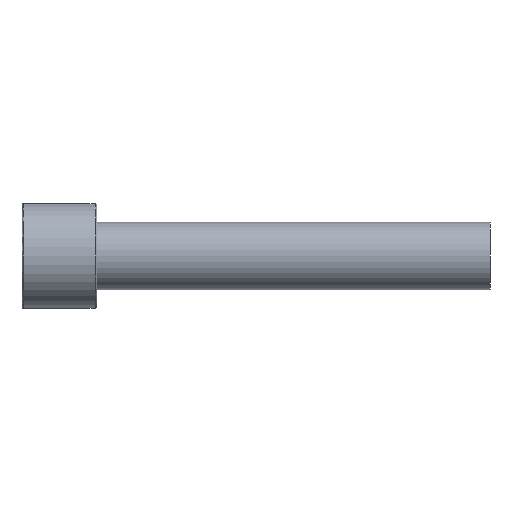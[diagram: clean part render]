
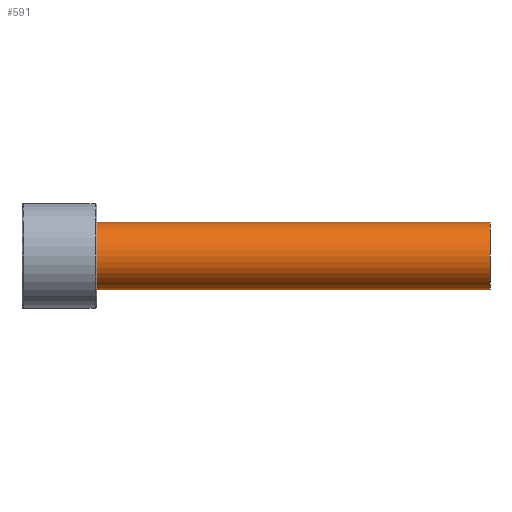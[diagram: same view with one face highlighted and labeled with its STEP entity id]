
A CAD part, front view. The second image highlights one B-rep face of the part: STEP entity #591.
In plain terms, the highlighted cylindrical face has radius 9 mm (diameter 18 mm), a partial arc.
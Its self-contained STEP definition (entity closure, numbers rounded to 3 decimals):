
#425=CARTESIAN_POINT('Vertex',(125.,0.,9.)) ;
#428=CARTESIAN_POINT('Axis2P3D Location',(125.,0.,0.)) ;
#432=CARTESIAN_POINT('Vertex',(125.,-9.,0.)) ;
#435=CARTESIAN_POINT('Axis2P3D Location',(125.,0.,0.)) ;
#439=CARTESIAN_POINT('Vertex',(125.,0.,-9.)) ;
#531=CARTESIAN_POINT('Line Origine',(125.,0.,9.)) ;
#535=CARTESIAN_POINT('Vertex',(20.,0.,9.)) ;
#538=CARTESIAN_POINT('Line Origine',(125.,0.,-9.)) ;
#542=CARTESIAN_POINT('Vertex',(20.,0.,-9.)) ;
#566=CARTESIAN_POINT('Axis2P3D Location',(125.,0.,0.)) ;
#571=CARTESIAN_POINT('Axis2P3D Location',(20.,0.,0.)) ;
#575=CARTESIAN_POINT('Vertex',(20.,-9.,0.)) ;
#578=CARTESIAN_POINT('Axis2P3D Location',(20.,0.,0.)) ;
#429=DIRECTION('Axis2P3D Direction',(1.,0.,-0.)) ;
#436=DIRECTION('Axis2P3D Direction',(1.,0.,-0.)) ;
#532=DIRECTION('Vector Direction',(-1.,0.,0.)) ;
#539=DIRECTION('Vector Direction',(-1.,0.,0.)) ;
#567=DIRECTION('Axis2P3D Direction',(-1.,-0.,-0.)) ;
#568=DIRECTION('Axis2P3D XDirection',(0.,0.,-1.)) ;
#572=DIRECTION('Axis2P3D Direction',(-1.,-0.,-0.)) ;
#579=DIRECTION('Axis2P3D Direction',(-1.,-0.,-0.)) ;
#430=AXIS2_PLACEMENT_3D('Circle Axis2P3D',#428,#429,$) ;
#437=AXIS2_PLACEMENT_3D('Circle Axis2P3D',#435,#436,$) ;
#569=AXIS2_PLACEMENT_3D('Cylinder Axis2P3D',#566,#567,#568) ;
#573=AXIS2_PLACEMENT_3D('Circle Axis2P3D',#571,#572,$) ;
#580=AXIS2_PLACEMENT_3D('Circle Axis2P3D',#578,#579,$) ;
#584=ORIENTED_EDGE('',*,*,#544,.T.) ;
#585=ORIENTED_EDGE('',*,*,#441,.F.) ;
#586=ORIENTED_EDGE('',*,*,#434,.F.) ;
#587=ORIENTED_EDGE('',*,*,#537,.T.) ;
#588=ORIENTED_EDGE('',*,*,#577,.T.) ;
#589=ORIENTED_EDGE('',*,*,#582,.T.) ;
#533=VECTOR('Line Direction',#532,1.) ;
#540=VECTOR('Line Direction',#539,1.) ;
#591=ADVANCED_FACE('367-18X125',(#590),#570,.T.) ;
#431=CIRCLE('generated circle',#430,9.) ;
#438=CIRCLE('generated circle',#437,9.) ;
#574=CIRCLE('generated circle',#573,9.) ;
#581=CIRCLE('generated circle',#580,9.) ;
#570=CYLINDRICAL_SURFACE('generated cylinder',#569,9.) ;
#434=EDGE_CURVE('',#426,#433,#431,.T.) ;
#441=EDGE_CURVE('',#433,#440,#438,.T.) ;
#537=EDGE_CURVE('',#426,#536,#534,.T.) ;
#544=EDGE_CURVE('',#543,#440,#541,.F.) ;
#577=EDGE_CURVE('',#536,#576,#574,.F.) ;
#582=EDGE_CURVE('',#576,#543,#581,.F.) ;
#583=EDGE_LOOP('',(#584,#585,#586,#587,#588,#589)) ;
#590=FACE_OUTER_BOUND('',#583,.T.) ;
#534=LINE('Line',#531,#533) ;
#541=LINE('Line',#538,#540) ;
#426=VERTEX_POINT('',#425) ;
#433=VERTEX_POINT('',#432) ;
#440=VERTEX_POINT('',#439) ;
#536=VERTEX_POINT('',#535) ;
#543=VERTEX_POINT('',#542) ;
#576=VERTEX_POINT('',#575) ;
